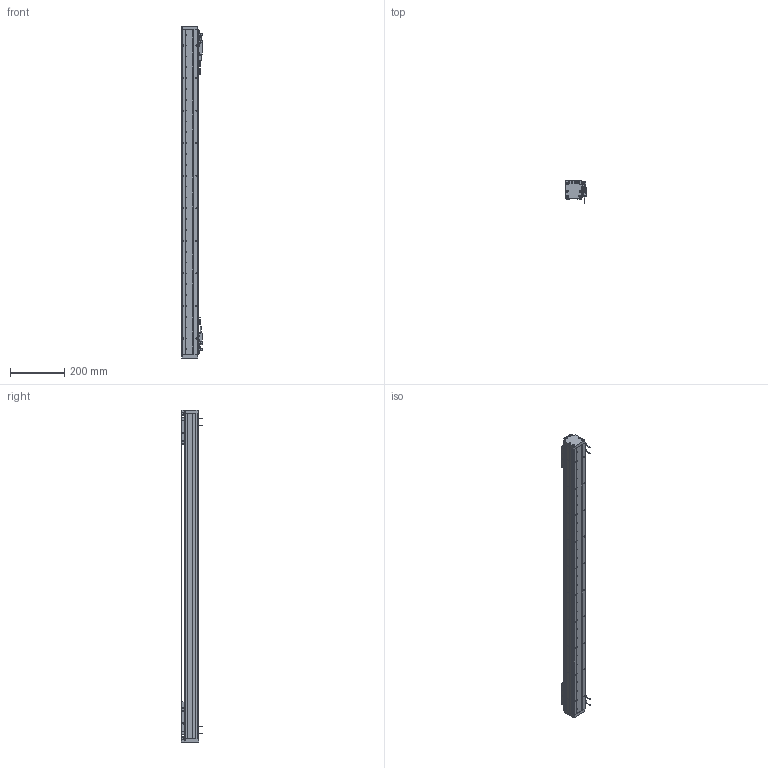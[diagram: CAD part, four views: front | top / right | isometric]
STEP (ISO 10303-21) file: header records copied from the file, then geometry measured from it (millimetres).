
FILE_DESCRIPTION (( 'STEP AP203' ), '1' );
FILE_NAME ('DA-A60-2-B1-T960-C010-0.2 眻盄萇儂.STEP', '2025-08-13T01:24:43', ( '' ), ( '' ), 'SwSTEP 2.0', 'SolidWorks 2019', '' );
FILE_SCHEMA (( 'CONFIG_CONTROL_DESIGN' ));
Length unit declared in the file: millimetre
Products named in the file (30): 复件 DA60-B1-GT-00 滑块钢轨^DA60-YT-B1-HT-B-01 一体化滑动台板; 复件 纯铜油杯 6x6mm^AU60-V 滚珠滑台; AU60-L 菁釱絳寢; 葩璃 XD-U-02  棠掑喜^DA-A60-2-B1-T60-C010-0.2-N; 葩璃 PM-Y65^DA-A60-2-B1-T60-C010-0.2-N; DA60-XJ-00 砎蝶結輸; 13679-0000-004-00 傷啣; 13679-0000-005-00 詩湍嶺輸; DA60-YT-B1-HT-B-01 珨极趙賑雄怢啣; ｸｴｼ DA-A60-GYP-DMT-00 ｹ箏邵ﾐﾓｦﾆｬ^DA-A60-2-B1-T60-C010-0.2-N(ﾄｬﾈﾏ); 葩璃 鞠褒情蹟譫 M3^DA-A60-2-B1-T60-C010-0.2-N(GB_FASTENER_NUT_STNAB M3-C); 复件 DA60-HC-XJ-01 中间缓冲橡胶^DA-A60-2-B1-T60-C010-0.2-N; AU60-V 幗紩賑怢; ｸｴｼ BAKM01-W030-C1-TP-0.2 ﾖｱﾏﾟｵ扈巐ｯﾗﾓ^DA-A60-2-B1-T60-C010-0.2-N; 葩璃 AKM01-W030-TRL^DA-A60-2-B1-T60-C010-0.2-N; ｸｴｼ DA60-DMT-DTJ-ZJ-00 ﾖﾐｼ荼ﾁﾊﾍｷﾖｧｼﾜ^DA-A60-2-B1-T60-C010-0.2-N; ｸｴｼ DA60-GYP-ZJ-01 ﾖﾐｼ荵箏邵ﾐﾓｦﾆｬ^DA-A60-2-B1-T60-C010-0.2-N(ﾄｬﾈﾏ); 葩璃 DA60-DMT-DTJ-00 黍杅芛盓殤^DA-A60-2-B1-T60-C010-0.2-N; DA60嶺詩湍郪璃-T1060; 葩璃 DA60-HK-DP-01 結え^AU60-V 幗紩賑怢; 13679-0000-006-00  钢带压块(默认); AU60-V 幗紩賑怢-1; IU-AU60-L-00 菁釱(1200); 葩璃 PM-T45^DA-A60-2-B1-T60-C010-0.2-N; 葩璃 DMT-010 1米m 0.2M^DA-A60-2-B1-T60-C010-0.2-N; 复件 DA60-GT-T-00 底座钢轨^AU60-L 底座导轨; DA-A60-GD-1020-00 钢带盖板(默认); DA60-YT-B1-HT-B-01 珨极趙賑雄怢啣-1; DA-A60-2-B1-T960-C010-0.2 眻盄萇儂; DA60-B1-HT-B-03 賑雄怢啣
Assembly tree (56 placements, depth 4):
  DA-A60-2-B1-T960-C010-0.2 眻盄萇儂
    AU60-L 菁釱絳寢
      IU-AU60-L-00 菁釱(1200)
      复件 DA60-GT-T-00 底座钢轨^AU60-L 底座导轨  x2
    AU60-V 幗紩賑怢
      DA60-YT-B1-HT-B-01 珨极趙賑雄怢啣
        DA60-B1-HT-B-03 賑雄怢啣
        复件 DA60-B1-GT-00 滑块钢轨^DA60-YT-B1-HT-B-01 一体化滑动台板  x2
      葩璃 DA60-HK-DP-01 結え^AU60-V 幗紩賑怢  x2
      复件 纯铜油杯 6x6mm^AU60-V 滚珠滑台
    AU60-V 幗紩賑怢-1
      DA60-YT-B1-HT-B-01 珨极趙賑雄怢啣-1
        DA60-B1-HT-B-03 賑雄怢啣
        复件 DA60-B1-GT-00 滑块钢轨^DA60-YT-B1-HT-B-01 一体化滑动台板  x2
      葩璃 DA60-HK-DP-01 結え^AU60-V 幗紩賑怢  x2
      复件 纯铜油杯 6x6mm^AU60-V 滚珠滑台
    DA60嶺詩湍郪璃-T1060
      13679-0000-006-00  钢带压块(默认)  x2
      DA-A60-GD-1020-00 钢带盖板(默认)
      13679-0000-004-00 傷啣  x2
      DA60-XJ-00 砎蝶結輸  x2
      13679-0000-005-00 詩湍嶺輸  x2
    ｸｴｼ DA60-DMT-DTJ-ZJ-00 ﾖﾐｼ荼ﾁﾊﾍｷﾖｧｼﾜ^DA-A60-2-B1-T60-C010-0.2-N
    葩璃 PM-Y65^DA-A60-2-B1-T60-C010-0.2-N
    复件 DA60-HC-XJ-01 中间缓冲橡胶^DA-A60-2-B1-T60-C010-0.2-N  x2
    ｸｴｼ DA60-GYP-ZJ-01 ﾖﾐｼ荵箏邵ﾐﾓｦﾆｬ^DA-A60-2-B1-T60-C010-0.2-N(ﾄｬﾈﾏ)
    ｸｴｼ DA-A60-GYP-DMT-00 ｹ箏邵ﾐﾓｦﾆｬ^DA-A60-2-B1-T60-C010-0.2-N(ﾄｬﾈﾏ)  x2
    葩璃 DA60-DMT-DTJ-00 黍杅芛盓殤^DA-A60-2-B1-T60-C010-0.2-N
    葩璃 DMT-010 1米m 0.2M^DA-A60-2-B1-T60-C010-0.2-N  x2
    ｸｴｼ BAKM01-W030-C1-TP-0.2 ﾖｱﾏﾟｵ扈巐ｯﾗﾓ^DA-A60-2-B1-T60-C010-0.2-N  x2
    葩璃 AKM01-W030-TRL^DA-A60-2-B1-T60-C010-0.2-N
    葩璃 PM-T45^DA-A60-2-B1-T60-C010-0.2-N  x4
    葩璃 XD-U-02  棠掑喜^DA-A60-2-B1-T60-C010-0.2-N
    葩璃 鞠褒情蹟譫 M3^DA-A60-2-B1-T60-C010-0.2-N(GB_FASTENER_NUT_STNAB M3-C)  x8
Bounding box: 76.95 x 80 x 1224 mm (x, y, z)
Volume: 2554048.4 mm3; surface area: 920021 mm2
Topology: 61 solids, 65 shells, 3044 faces, 8235 edges, 5234 vertices
Faces by surface type: plane 1498, cylinder 1234, cone 280, bspline 22, torus 8, sphere 2
Entity records: 74164 total; most frequent: CARTESIAN_POINT 17036, ORIENTED_EDGE 11316, DIRECTION 10824, EDGE_CURVE 5658, AXIS2_PLACEMENT_3D 3693, VERTEX_POINT 3680, VECTOR 3438, LINE 3438
